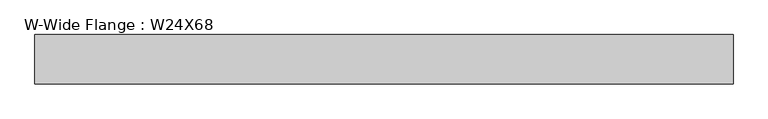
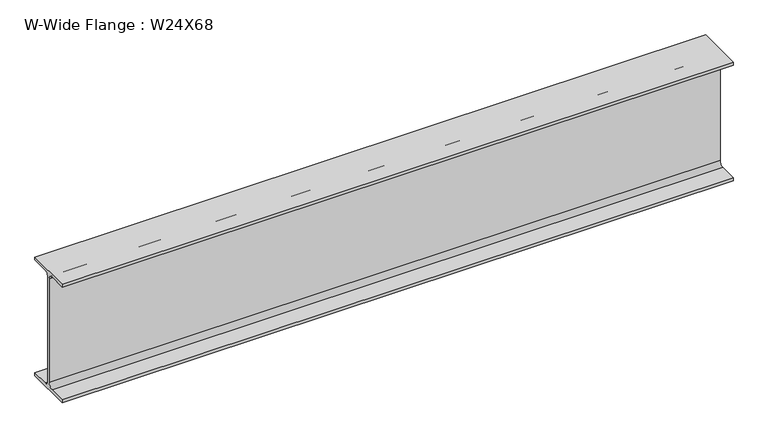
"""IFC4 building model written with IfcOpenShell, lengths in millimetres: beam geometry, W-Wide Flange : W24X68."""

from ifc_helpers import new_model, si_unit, point, frame, frame_2d, origin, place, context, project, spatial, polyline, circle_curve, trimmed, segment, composite_curve, outline, extrude, source, transform, mapped, element, save


def w_wide_flange_w24x68_3a27caef(model_context):
    return source(origin(), model_context, "Body", "SweptSolid", [
        extrude(outline(composite_curve([segment(polyline([(113.919, -286.131), (113.919, -300.99), (-113.919, -300.99), (-113.919, -286.131), (-28.5115, -286.131)]), True, "CONTINUOUS"), segment(trimmed(circle_curve(frame_2d((-28.5115, -262.89)), 23.241), [point((-28.5115, -286.131))], [point((-5.2705, -262.89))], True, "CARTESIAN"), True, "CONTINUOUS"), segment(polyline([(-5.2705, -262.89), (-5.2705, 262.89)]), True, "CONTINUOUS"), segment(trimmed(circle_curve(frame_2d((-28.5115, 262.89)), 23.241), [point((-5.2705, 262.89))], [point((-28.5115, 286.131))], True, "CARTESIAN"), True, "CONTINUOUS"), segment(polyline([(-28.5115, 286.131), (-113.919, 286.131), (-113.919, 300.99), (113.919, 300.99), (113.919, 286.131), (28.5115, 286.131)]), True, "CONTINUOUS"), segment(trimmed(circle_curve(frame_2d((28.5115, 262.89)), 23.241), [point((28.5115, 286.131))], [point((5.2705, 262.89))], True, "CARTESIAN"), True, "CONTINUOUS"), segment(polyline([(5.2705, 262.89), (5.2705, -262.89)]), True, "CONTINUOUS"), segment(trimmed(circle_curve(frame_2d((28.5115, -262.89)), 23.241), [point((5.2705, -262.89))], [point((28.5115, -286.131))], True, "CARTESIAN"), True, "CONTINUOUS"), segment(polyline([(28.5115, -286.131), (113.919, -286.131)]), True, "CONTINUOUS")], self_intersect=False)), frame((-1611.63, 0.0, 0.0), z_axis=(1.0, 0.0, 0.0), x_axis=(0.0, 1.0, 0.0)), (0.0, 0.0, 1.0), 3223.26),
    ])


if __name__ == "__main__":
    model = new_model("IFC4")
    model_context = context("Model", 3, world=origin())
    ifc_project = project(units=[si_unit("LENGTHUNIT", "METRE", prefix="MILLI")], contexts=[model_context])
    site = spatial("IfcSite", under=ifc_project)
    building = spatial("IfcBuilding", under=site)
    placement = place(None, origin())
    w_wide_flange_w24x68_shape = w_wide_flange_w24x68_3a27caef(model_context)
    element("IfcBeam", 1, ObjectType="W-Wide Flange : W24X68", at=placement, inside=building, context=model_context, shape_type="MappedRepresentation", body=[
        mapped(w_wide_flange_w24x68_shape, transform((0.0, 0.0, 0.0), x_axis=(1.0, 0.0, 0.0), y_axis=(0.0, 1.0, 0.0), z_axis=(0.0, 0.0, 1.0))),
    ])
    save(model, "model.ifc")
